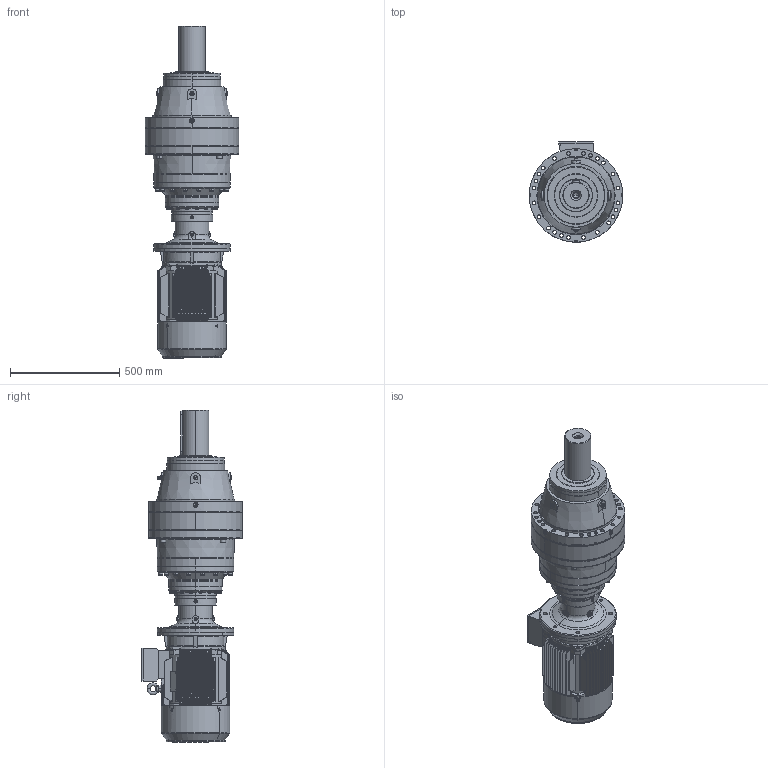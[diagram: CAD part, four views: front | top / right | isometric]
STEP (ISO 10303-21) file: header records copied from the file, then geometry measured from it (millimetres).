
FILE_DESCRIPTION (( 'STEP AP203' ), '1' );
FILE_NAME ('PVL-2904L-HS160M-4.STEP', '2019-05-24T12:51:33', ( '' ), ( '' ), 'SwSTEP 2.0', 'SolidWorks 2012', '' );
FILE_SCHEMA (( 'CONFIG_CONTROL_DESIGN' ));
Products named in the file (18): PVL-2904L-HS160M-4; Y2-160_shaft; M3-160M-FF-B5; Y2-160M+À+¿(B5)_-++ñ; M3-HS160M-FF-B5; Y2-160-180ñ»ª­®+_-++ñ; +ª+§ªiY2-160ñ»ª­_-++ñ; Y2-160-2ª¥--®+_-++ñ; Y2-160ñ»ª­+¿_-++ñ; Eyebolts GB_GB_FASTENER_SCREWS_FRS M12; Y2-160-4Ý¾6Ý¾8-ª+---®+_-++ñ; +¦i-MN2-160_-++ñ; ML49A_Varsayìlan; FL15A_Varsayìlan; EK2904L_Varsayìlan; PNL_2904L_0_0_A16_B5_ML49A_FL15A_0_0_0_0_0_0_0_0_0_0_0_M1; 11160B5_Varsayìlan; P29_Varsayìlan
Assembly tree (17 placements, depth 5):
  PVL-2904L-HS160M-4
    PNL_2904L_0_0_A16_B5_ML49A_FL15A_0_0_0_0_0_0_0_0_0_0_0_M1
      P29_Varsayìlan
      11160B5_Varsayìlan
      ML49A_Varsayìlan
      EK2904L_Varsayìlan
      FL15A_Varsayìlan
    M3-HS160M-FF-B5
      M3-160M-FF-B5
        Eyebolts GB_GB_FASTENER_SCREWS_FRS M12
        Y2-160-4Ý¾6Ý¾8-ª+---®+_-++ñ
        +¦i-MN2-160_-++ñ
        Y2-160-2ª¥--®+_-++ñ
        +ª+§ªiY2-160ñ»ª­_-++ñ
          Y2-160-180ñ»ª­®+_-++ñ
          Y2-160ñ»ª­+¿_-++ñ
        Y2-160M+À+¿(B5)_-++ñ
        Y2-160_shaft
Bounding box: 428 x 461 x 1519.1 mm (x, y, z)
Volume: 69665908.2 mm3; surface area: 4456576.9 mm2
Topology: 16 solids, 29 shells, 3915 faces, 10298 edges, 6502 vertices
Faces by surface type: cylinder 1486, plane 1440, bspline 599, cone 269, torus 81, sphere 40
Full cylindrical faces by diameter (mm): 8.566 x1
Entity records: 178761 total; most frequent: CARTESIAN_POINT 84834, ORIENTED_EDGE 20278, DIRECTION 18003, EDGE_CURVE 10147, AXIS2_PLACEMENT_3D 7013, VERTEX_POINT 6488, EDGE_LOOP 4458, VECTOR 3977
